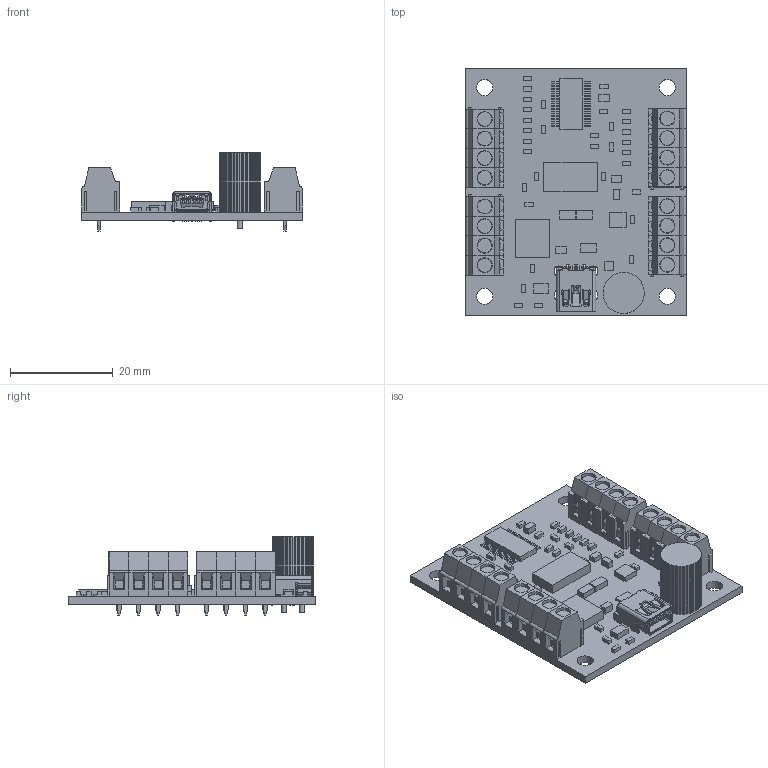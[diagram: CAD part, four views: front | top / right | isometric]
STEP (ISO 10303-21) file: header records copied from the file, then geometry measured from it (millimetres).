
FILE_DESCRIPTION(('Open CASCADE Model'),'2;1');
FILE_NAME('Open CASCADE Shape Model','2010-10-27T12:30:48',('Author'),( 'Open CASCADE'),'Open CASCADE STEP processor 6.2','Open CASCADE 6.2' ,'Unknown');
FILE_SCHEMA(('AUTOMOTIVE_DESIGN { 1 0 10303 214 1 1 1 1 }'));
Length unit declared in the file: millimetre
Products named in the file (92): PCB; Board; R1; 489473344; Extruded; U7; 489472448; U2; L8; 489472960; L9; L6; L7; L2; L1; L4; L3; C18; U4; 603641488; U1; 603628688; 603647632; U3; 603630096; R3; R2; 489472832; L5; 489473472; J3; 548190519; Open CASCADE STEP translator 6.2 173.20.1.1; Open CASCADE STEP translator 6.2 173.20.1.2; J5; 20020327-d04_asm; 20020327-D-LEM; 20020327-D-REM; J4; J1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
Assembly tree (159 placements, depth 4):
  PCB
    Board
    R1
      489473344
        Extruded
    U7
      489472448
        Extruded
    U2
      489472448
        Extruded
    L8
      489472960
        Extruded
    L9
      489472960
        Extruded
    L6
      489472960
        Extruded
    L7
      489472960
        Extruded
    L2
      489472960
        Extruded
    L1
      489472960
        Extruded
    L4
      489472960
        Extruded
    L3
      489472960
        Extruded
    C18
      489472960
        Extruded
    U4
      603641488
        Extruded
    U1
      603628688  x29
        Extruded
      603647632
        Extruded
    U3
      603630096
        Extruded
    R3
      489472960
        Extruded
    R2
      489472832
        Extruded
    L5
      489473472
        Extruded
    J3
      548190519
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Bounding box: 43.18 x 48.26 x 15.2 mm (x, y, z)
Volume: 7384.2 mm3; surface area: 11960.1 mm2
Topology: 120 solids, 120 shells, 2862 faces, 7377 edges, 4774 vertices
Faces by surface type: plane 2435, cylinder 369, cone 40, bspline 18
Full cylindrical faces by diameter (mm): 0.8 x5, 1 x2, 1.067 x2, 1.321 x16, 3.175 x4
Entity records: 58263 total; most frequent: CARTESIAN_POINT 14028, DIRECTION 7832, LINE 5431, VECTOR 5431, ORIENTED_EDGE 4254, PCURVE 4254, DEFINITIONAL_REPRESENTATION 4254, EDGE_CURVE 2127
